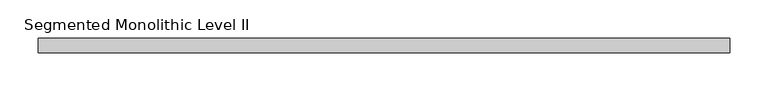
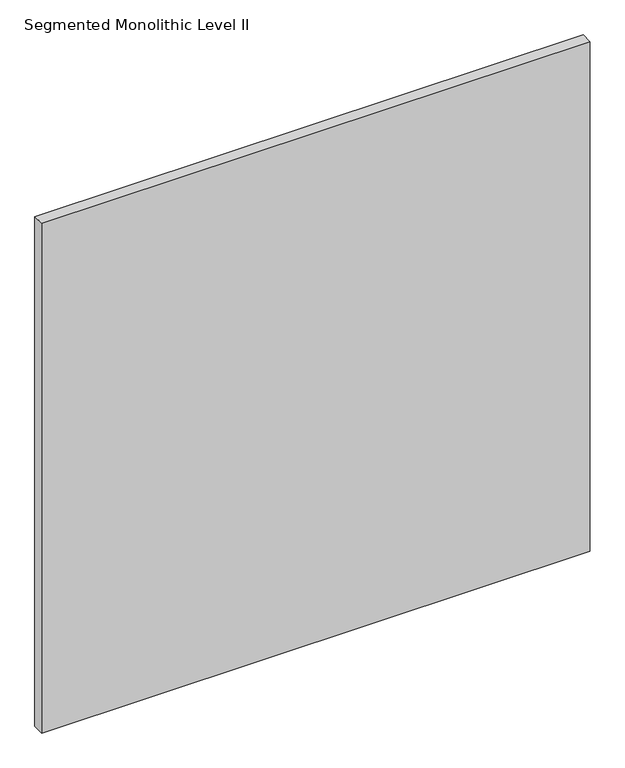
"""IFC4 building model written with IfcOpenShell, lengths in millimetres: proxy geometry, Panel-Fascia-Teknion-Altos-Standard : Segmented Monolithic Level II."""

from ifc_helpers import new_model, si_unit, frame, origin, place, context, project, spatial, polyline, outline, extrude, source, transform, mapped, element, save


def segmented_monolithic_level_ii_ef75357c(model_context):
    return source(origin(), model_context, "Body", "SweptSolid", [
        extrude(outline(polyline([(454.025, 9.525), (454.025, -9.525), (-454.025, -9.525), (-454.025, 9.525), (454.025, 9.525)])), frame((0.0, 0.0, 3.175), z_axis=(0.0, 0.0, 1.0), x_axis=(1.0, 0.0, 0.0)), (0.0, 0.0, 1.0), 892.175),
    ])


if __name__ == "__main__":
    model = new_model("IFC4")
    model_context = context("Model", 3, world=origin())
    ifc_project = project(units=[si_unit("LENGTHUNIT", "METRE", prefix="MILLI")], contexts=[model_context])
    site = spatial("IfcSite", under=ifc_project)
    building = spatial("IfcBuilding", under=site)
    placement = place(None, origin())
    segmented_monolithic_level_ii_shape = segmented_monolithic_level_ii_ef75357c(model_context)
    element("IfcBuildingElementProxy", 1, Name="Panel-Fascia-Teknion-Altos-Standard : Segmented Monolithic Level II", ObjectType="Panel-Fascia-Teknion-Altos-Standard : Segmented Monolithic Level II", at=placement, inside=building, context=model_context, shape_type="MappedRepresentation", body=[
        mapped(segmented_monolithic_level_ii_shape, transform((0.0, 0.0, 0.0), x_axis=(1.0, 0.0, 0.0), y_axis=(0.0, 1.0, 0.0), z_axis=(0.0, 0.0, 1.0))),
    ])
    save(model, "model.ifc")
